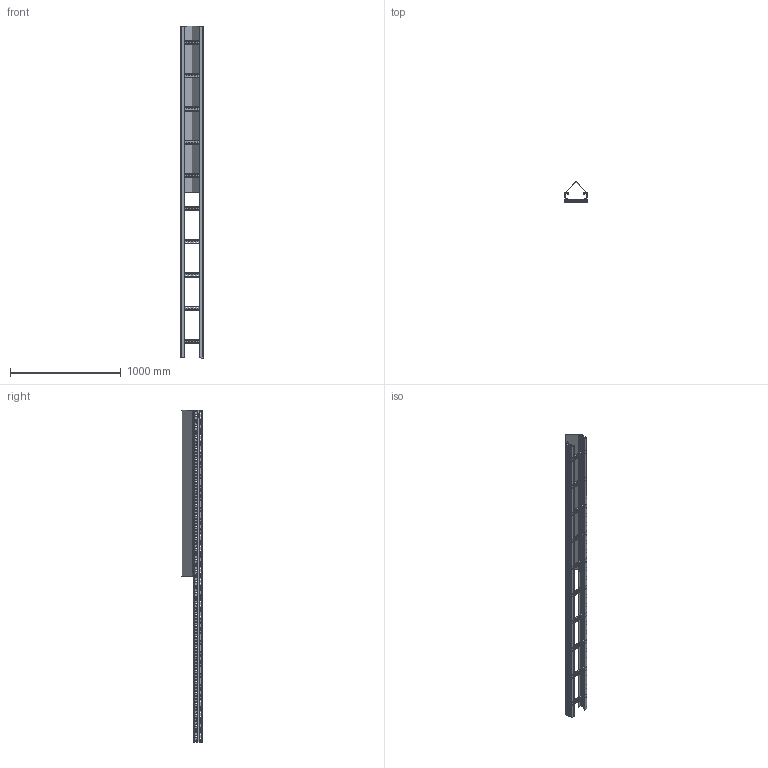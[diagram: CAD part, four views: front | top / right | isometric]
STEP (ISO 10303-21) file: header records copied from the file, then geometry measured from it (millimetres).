
FILE_DESCRIPTION (( 'STEP AP203' ), '1' );
FILE_NAME ('Ñáîðêà ëîòêî +êðûøêà ñêàòíàÿ.STEP', '2015-04-03T07:18:31', ( '' ), ( '' ), 'SwSTEP 2.0', 'SolidWorks 2014', '' );
FILE_SCHEMA (( 'CONFIG_CONTROL_DESIGN' ));
Length unit declared in the file: millimetre
Products named in the file (5): 鋋翲歑鍙 34mm H80_3000x80x1,5; Traversino 39x19x1.5_200:(1,5); Ladder trays H80_80x200x3000 (1.5); U5.0100.00.00.0 Ñêàòíàÿ êðûøêà 1_200; Ñáîðêà ëîòêî +êðûøêà ñêàòíàÿ
Assembly tree (14 placements, depth 3):
  Ñáîðêà ëîòêî +êðûøêà ñêàòíàÿ
    Ladder trays H80_80x200x3000 (1.5)
      鋋翲歑鍙 34mm H80_3000x80x1,5  x2
      Traversino 39x19x1.5_200:(1,5)  x10
    U5.0100.00.00.0 Ñêàòíàÿ êðûøêà 1_200
Bounding box: 203 x 181.12 x 3000.19 mm (x, y, z)
Volume: 2264569.4 mm3; surface area: 3622009.9 mm2
Topology: 13 solids, 13 shells, 4380 faces, 12016 edges, 7680 vertices
Faces by surface type: plane 2506, cylinder 1782, bspline 92
Entity records: 50443 total; most frequent: CARTESIAN_POINT 9097, ORIENTED_EDGE 8472, DIRECTION 8368, EDGE_CURVE 4236, LINE 2858, VECTOR 2858, VERTEX_POINT 2756, AXIS2_PLACEMENT_3D 2755
